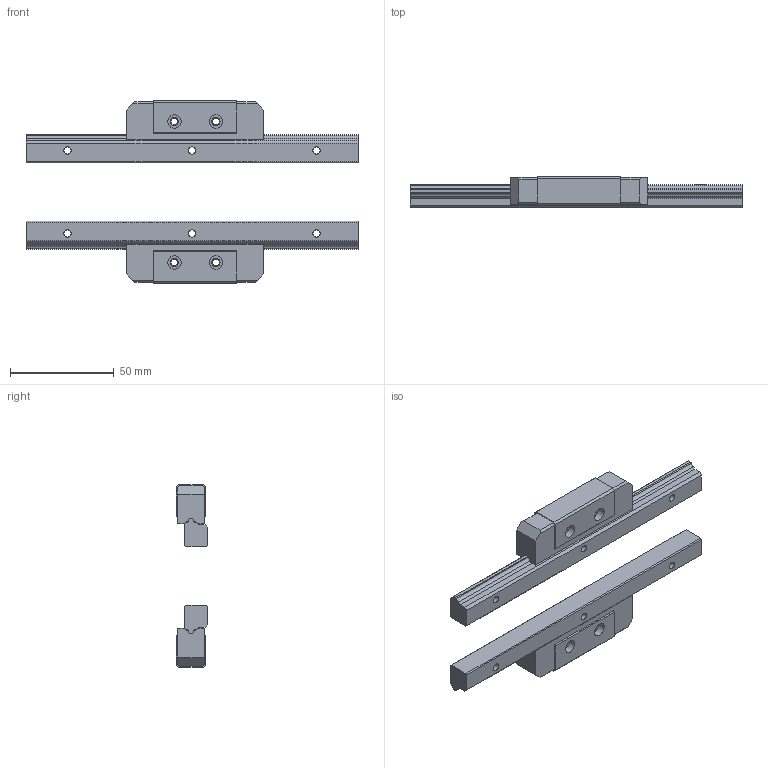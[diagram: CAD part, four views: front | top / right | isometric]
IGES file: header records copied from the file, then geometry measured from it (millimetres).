
Start section: Data from Parasolid IGES Translator 26.0.171, Copyright(c) 2006 Siemens PLM Software. All Rights Reserved.
Global section: file name: HR1530-160L_G20_40_47_0_0_0.igs; native system: By Siemens PLM Incorporated; preprocessor: XPlus GENERIC/IGES 26.0.171; author: Noname; organization: Noname; date: 20240521.104720; units: millimetre
Bounding box: 160 x 15 x 88 mm (x, y, z)
Surface area: 25889.4 mm2 (no closed solid volume)
Topology: 0 solids, 0 shells, 166 faces, 860 edges, 816 vertices
Faces by surface type: extrusion 126, revolution 40
